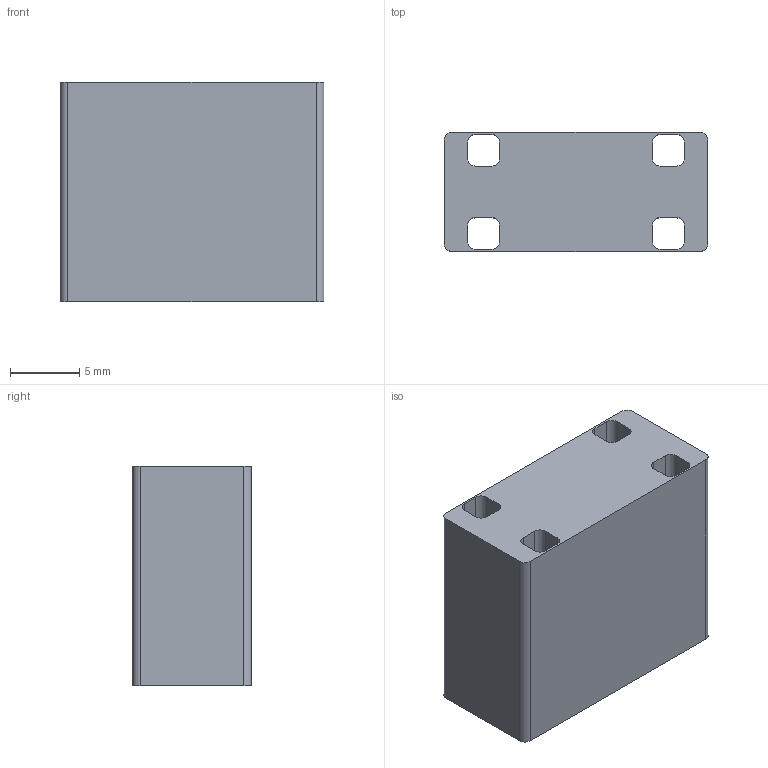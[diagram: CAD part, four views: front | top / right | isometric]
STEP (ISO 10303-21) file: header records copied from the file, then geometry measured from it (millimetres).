
FILE_DESCRIPTION(('Mechanical CAD reference from nasji.com'),'2;1');
FILE_NAME('NASJI.step','',(''),(''),'','NASJI distribution','');
FILE_SCHEMA(('AUTOMOTIVE_DESIGN { 1 0 10303 214 1 1 1 1 }'));
Length unit declared in the file: millimetre
Products named in the file (1): Open CASCADE STEP translator 7.8 7
Bounding box: 19.1 x 8.6 x 15.9 mm (x, y, z)
Volume: 2288.1 mm3; surface area: 1677.4 mm2
Topology: 1 solids, 1 shells, 42 faces, 120 edges, 80 vertices
Faces by surface type: plane 22, cylinder 20
Entity records: 2960 total; most frequent: CARTESIAN_POINT 655, DIRECTION 404, ORIENTED_EDGE 240, PCURVE 240, DEFINITIONAL_REPRESENTATION 240, LINE 216, VECTOR 216, EDGE_CURVE 120
